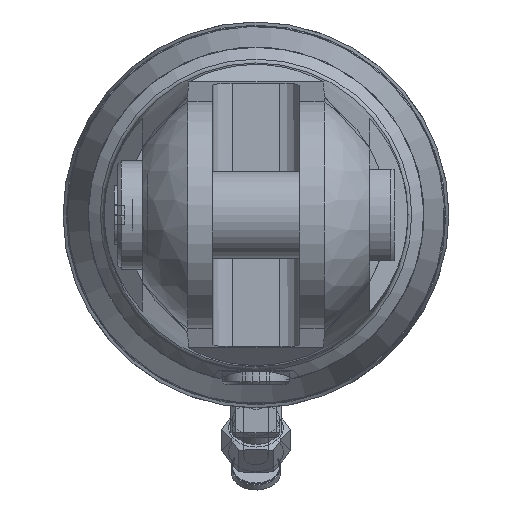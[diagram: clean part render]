
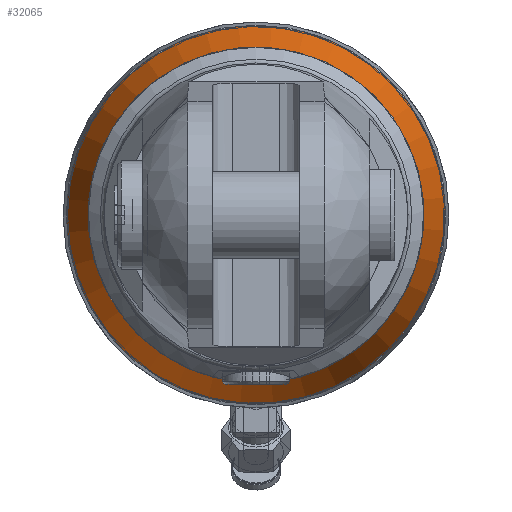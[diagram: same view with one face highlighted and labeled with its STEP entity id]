
A CAD part, left-side view. The second image highlights one B-rep face of the part: STEP entity #32065.
In plain terms, the highlighted conical face has half-angle 19.57 degrees and reference radius 71.944 mm.
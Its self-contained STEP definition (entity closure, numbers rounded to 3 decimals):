
#4526=FACE_OUTER_BOUND('',#6333,.T.);
#6333=EDGE_LOOP('',(#27682,#27683,#27684,#27685,#27686,#27687));
#9158=LINE('',#58400,#11985);
#11985=VECTOR('',#38316,71.944);
#12414=CIRCLE('',#33335,76.22);
#12415=CIRCLE('',#33336,76.22);
#12416=CIRCLE('',#33338,67.667);
#12417=CIRCLE('',#33339,67.667);
#15184=VERTEX_POINT('',#58390);
#15185=VERTEX_POINT('',#58392);
#15186=VERTEX_POINT('',#58396);
#15187=VERTEX_POINT('',#58397);
#19425=EDGE_CURVE('',#15184,#15185,#12414,.T.);
#19426=EDGE_CURVE('',#15185,#15184,#12415,.T.);
#19427=EDGE_CURVE('',#15186,#15187,#12416,.T.);
#19428=EDGE_CURVE('',#15187,#15186,#12417,.T.);
#19429=EDGE_CURVE('',#15187,#15185,#9158,.T.);
#27682=ORIENTED_EDGE('',*,*,#19427,.F.);
#27683=ORIENTED_EDGE('',*,*,#19428,.F.);
#27684=ORIENTED_EDGE('',*,*,#19429,.T.);
#27685=ORIENTED_EDGE('',*,*,#19425,.F.);
#27686=ORIENTED_EDGE('',*,*,#19426,.F.);
#27687=ORIENTED_EDGE('',*,*,#19429,.F.);
#28958=CONICAL_SURFACE('',#33337,71.944,0.342);
#32065=ADVANCED_FACE('',(#4526),#28958,.T.);
#33335=AXIS2_PLACEMENT_3D('',#58393,#38306,#38307);
#33336=AXIS2_PLACEMENT_3D('',#58394,#38308,#38309);
#33337=AXIS2_PLACEMENT_3D('',#58395,#38310,#38311);
#33338=AXIS2_PLACEMENT_3D('',#58398,#38312,#38313);
#33339=AXIS2_PLACEMENT_3D('',#58399,#38314,#38315);
#38306=DIRECTION('center_axis',(1.,0.,0.));
#38307=DIRECTION('ref_axis',(0.,0.091,0.996));
#38308=DIRECTION('center_axis',(1.,0.,0.));
#38309=DIRECTION('ref_axis',(0.,0.091,0.996));
#38310=DIRECTION('center_axis',(1.,0.,0.));
#38311=DIRECTION('ref_axis',(0.,-0.091,-0.996));
#38312=DIRECTION('center_axis',(-1.,0.,0.));
#38313=DIRECTION('ref_axis',(0.,0.091,0.996));
#38314=DIRECTION('center_axis',(-1.,0.,0.));
#38315=DIRECTION('ref_axis',(0.,0.091,0.996));
#38316=DIRECTION('',(0.942,0.031,0.334));
#58390=CARTESIAN_POINT('',(-0.471,-6.967,-75.901));
#58392=CARTESIAN_POINT('',(-0.471,6.967,75.901));
#58393=CARTESIAN_POINT('Origin',(-0.471,0.,
0.));
#58394=CARTESIAN_POINT('Origin',(-0.471,0.,
0.));
#58395=CARTESIAN_POINT('Origin',(-12.5,0.,0.));
#58396=CARTESIAN_POINT('',(-24.529,-6.185,-67.384));
#58397=CARTESIAN_POINT('',(-24.529,6.185,67.384));
#58398=CARTESIAN_POINT('Origin',(-24.529,0.,
0.));
#58399=CARTESIAN_POINT('Origin',(-24.529,0.,
0.));
#58400=CARTESIAN_POINT('',(-12.5,6.576,71.643));
